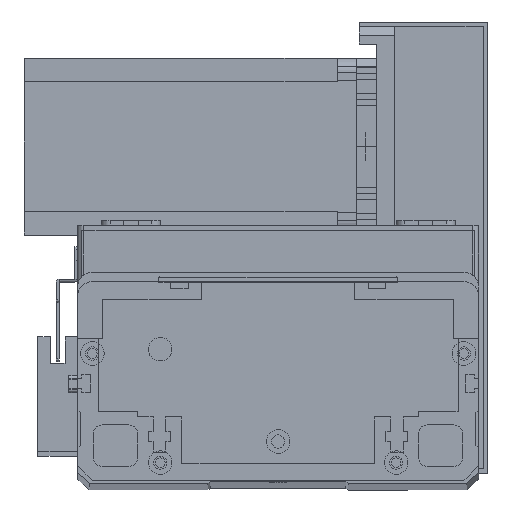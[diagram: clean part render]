
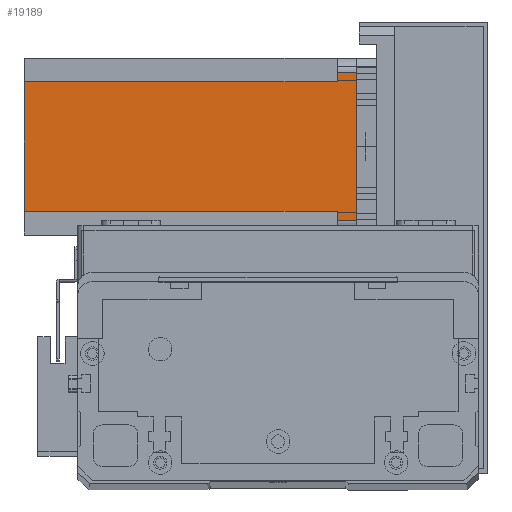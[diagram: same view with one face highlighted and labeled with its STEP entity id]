
A CAD part, top view. The second image highlights one B-rep face of the part: STEP entity #19189.
In plain terms, the highlighted planar face has unit normal (0, 0, 1) as drawn and (0, 1, 0) by its records, which use the part's own axes.
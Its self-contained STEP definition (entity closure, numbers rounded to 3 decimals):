
#8 = CARTESIAN_POINT ( 'NONE',  ( 52., 60., -6.5 ) ) ;
#198 = VERTEX_POINT ( 'NONE', #25973 ) ;
#588 = EDGE_LOOP ( 'NONE', ( #17880, #20298, #28900, #962, #2133, #3219, #4270, #5199 ) ) ;
#962 = ORIENTED_EDGE ( 'NONE', *, *, #13695, .F. ) ;
#1576 = CARTESIAN_POINT ( 'NONE',  ( 5., 60., -112.5 ) ) ;
#2133 = ORIENTED_EDGE ( 'NONE', *, *, #15048, .T. ) ;
#3219 = ORIENTED_EDGE ( 'NONE', *, *, #16361, .F. ) ;
#4270 = ORIENTED_EDGE ( 'NONE', *, *, #18457, .T. ) ;
#5199 = ORIENTED_EDGE ( 'NONE', *, *, #19585, .T. ) ;
#5711 = LINE ( 'NONE', #12849, #23137 ) ;
#5804 = VECTOR ( 'NONE', #14201, 1000. ) ;
#7172 = CARTESIAN_POINT ( 'NONE',  ( 0., 60., -112.5 ) ) ;
#7271 = VERTEX_POINT ( 'NONE', #12809 ) ;
#7559 = VERTEX_POINT ( 'NONE', #8 ) ;
#8104 = LINE ( 'NONE', #15041, #8850 ) ;
#8850 = VECTOR ( 'NONE', #17338, 1000. ) ;
#9099 = LINE ( 'NONE', #25567, #20390 ) ;
#9368 = VECTOR ( 'NONE', #17743, 1000. ) ;
#9520 = DIRECTION ( 'NONE',  ( 0., 1., 0. ) ) ;
#10028 = LINE ( 'NONE', #20401, #14636 ) ;
#10031 = VERTEX_POINT ( 'NONE', #12293 ) ;
#10673 = VECTOR ( 'NONE', #25187, 1000. ) ;
#10923 = CARTESIAN_POINT ( 'NONE',  ( 52., 60., -6.5 ) ) ;
#10961 = DIRECTION ( 'NONE',  ( 1., 0., 0. ) ) ;
#11818 = EDGE_CURVE ( 'NONE', #10031, #22549, #16668, .T. ) ;
#12293 = CARTESIAN_POINT ( 'NONE',  ( 55., 60., 0. ) ) ;
#12581 = EDGE_CURVE ( 'NONE', #7559, #22549, #23651, .T. ) ;
#12809 = CARTESIAN_POINT ( 'NONE',  ( 5., 60., -6.5 ) ) ;
#12841 = DIRECTION ( 'NONE',  ( -1., 0., 0. ) ) ;
#12849 = CARTESIAN_POINT ( 'NONE',  ( 0., 60., -112.5 ) ) ;
#13695 = EDGE_CURVE ( 'NONE', #18874, #7559, #23930, .T. ) ;
#14201 = DIRECTION ( 'NONE',  ( 0., 0., 1. ) ) ;
#14636 = VECTOR ( 'NONE', #22648, 1000. ) ;
#14735 = FACE_OUTER_BOUND ( 'NONE', #588, .T. ) ;
#15041 = CARTESIAN_POINT ( 'NONE',  ( 0., 60., 0. ) ) ;
#15048 = EDGE_CURVE ( 'NONE', #18874, #27093, #5711, .T. ) ;
#16361 = EDGE_CURVE ( 'NONE', #198, #27093, #10028, .T. ) ;
#16668 = LINE ( 'NONE', #25321, #10673 ) ;
#17338 = DIRECTION ( 'NONE',  ( -1., 0., 0. ) ) ;
#17743 = DIRECTION ( 'NONE',  ( 0., 0., 1. ) ) ;
#17880 = ORIENTED_EDGE ( 'NONE', *, *, #22719, .F. ) ;
#18457 = EDGE_CURVE ( 'NONE', #198, #7271, #9099, .T. ) ;
#18874 = VERTEX_POINT ( 'NONE', #28963 ) ;
#19189 = ADVANCED_FACE ( 'NONE', ( #14735 ), #23011, .T. ) ;
#19585 = EDGE_CURVE ( 'NONE', #7271, #26683, #21347, .T. ) ;
#20298 = ORIENTED_EDGE ( 'NONE', *, *, #11818, .T. ) ;
#20390 = VECTOR ( 'NONE', #27770, 1000. ) ;
#20401 = CARTESIAN_POINT ( 'NONE',  ( 8., 60., -112.5 ) ) ;
#20833 = CARTESIAN_POINT ( 'NONE',  ( 8., 60., -112.5 ) ) ;
#21347 = LINE ( 'NONE', #1576, #9368 ) ;
#22549 = VERTEX_POINT ( 'NONE', #27813 ) ;
#22648 = DIRECTION ( 'NONE',  ( 0., 0., -1. ) ) ;
#22719 = EDGE_CURVE ( 'NONE', #10031, #26683, #8104, .T. ) ;
#23011 = PLANE ( 'NONE',  #23111 ) ;
#23111 = AXIS2_PLACEMENT_3D ( 'NONE', #7172, #9520, #25238 ) ;
#23137 = VECTOR ( 'NONE', #12841, 1000. ) ;
#23651 = LINE ( 'NONE', #10923, #28782 ) ;
#23930 = LINE ( 'NONE', #29416, #5804 ) ;
#25187 = DIRECTION ( 'NONE',  ( 0., 0., -1. ) ) ;
#25238 = DIRECTION ( 'NONE',  ( 0., 0., 1. ) ) ;
#25321 = CARTESIAN_POINT ( 'NONE',  ( 55., 60., -112.5 ) ) ;
#25567 = CARTESIAN_POINT ( 'NONE',  ( 8., 60., -6.5 ) ) ;
#25973 = CARTESIAN_POINT ( 'NONE',  ( 8., 60., -6.5 ) ) ;
#26683 = VERTEX_POINT ( 'NONE', #28127 ) ;
#27093 = VERTEX_POINT ( 'NONE', #20833 ) ;
#27770 = DIRECTION ( 'NONE',  ( -1., 0., 0. ) ) ;
#27813 = CARTESIAN_POINT ( 'NONE',  ( 55., 60., -6.5 ) ) ;
#28127 = CARTESIAN_POINT ( 'NONE',  ( 5., 60., 0. ) ) ;
#28782 = VECTOR ( 'NONE', #10961, 1000. ) ;
#28900 = ORIENTED_EDGE ( 'NONE', *, *, #12581, .F. ) ;
#28963 = CARTESIAN_POINT ( 'NONE',  ( 52., 60., -112.5 ) ) ;
#29416 = CARTESIAN_POINT ( 'NONE',  ( 52., 60., -112.5 ) ) ;
